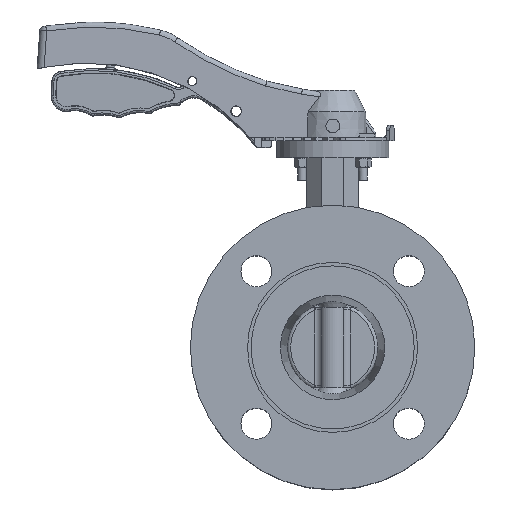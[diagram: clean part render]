
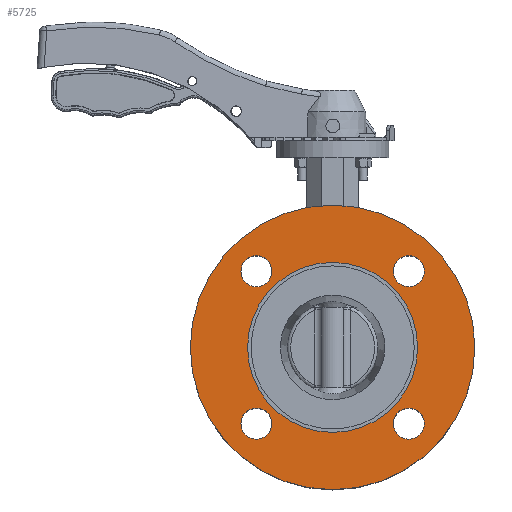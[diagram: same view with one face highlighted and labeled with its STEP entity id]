
A CAD part, top view. The second image highlights one B-rep face of the part: STEP entity #5725.
In plain terms, the highlighted planar face has unit normal (0, 0, 1).
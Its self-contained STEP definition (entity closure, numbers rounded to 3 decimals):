
#1213 = CARTESIAN_POINT ( 'NONE',  ( 44.194, 44.194, 52. ) ) ;
#1483 = DIRECTION ( 'NONE',  ( 0., 0., -1. ) ) ;
#2125 = DIRECTION ( 'NONE',  ( 0., 0., -1. ) ) ;
#2199 = AXIS2_PLACEMENT_3D ( 'NONE', #41353, #60862, #32070 ) ;
#2539 = VERTEX_POINT ( 'NONE', #58785 ) ;
#3212 = CARTESIAN_POINT ( 'NONE',  ( 44.194, -44.194, 52. ) ) ;
#3923 = DIRECTION ( 'NONE',  ( 1., 0., 0. ) ) ;
#4165 = EDGE_LOOP ( 'NONE', ( #5279 ) ) ;
#4630 = DIRECTION ( 'NONE',  ( 0., 0., -1. ) ) ;
#4985 = EDGE_CURVE ( 'NONE', #44496, #44496, #59863, .T. ) ;
#5279 = ORIENTED_EDGE ( 'NONE', *, *, #46156, .T. ) ;
#5725 = ADVANCED_FACE ( 'NONE', ( #32668, #36110, #51543, #60223, #50618, #26482 ), #22439, .F. ) ;
#6590 = ORIENTED_EDGE ( 'NONE', *, *, #57331, .T. ) ;
#8399 = AXIS2_PLACEMENT_3D ( 'NONE', #15450, #22460, #31765 ) ;
#10756 = DIRECTION ( 'NONE',  ( -1., 0., 0. ) ) ;
#13041 = ORIENTED_EDGE ( 'NONE', *, *, #45915, .T. ) ;
#13202 = EDGE_LOOP ( 'NONE', ( #48295 ) ) ;
#13314 = VERTEX_POINT ( 'NONE', #32115 ) ;
#13621 = CARTESIAN_POINT ( 'NONE',  ( 35.194, 44.194, 52. ) ) ;
#14219 = VERTEX_POINT ( 'NONE', #13621 ) ;
#15450 = CARTESIAN_POINT ( 'NONE',  ( -44.194, -44.194, 52. ) ) ;
#17512 = AXIS2_PLACEMENT_3D ( 'NONE', #45937, #50300, #27102 ) ;
#20378 = EDGE_CURVE ( 'NONE', #2539, #2539, #28769, .T. ) ;
#21119 = AXIS2_PLACEMENT_3D ( 'NONE', #36456, #4630, #23397 ) ;
#21975 = DIRECTION ( 'NONE',  ( -1., 0., 0. ) ) ;
#22439 = PLANE ( 'NONE',  #17512 ) ;
#22460 = DIRECTION ( 'NONE',  ( 0., 0., -1. ) ) ;
#23397 = DIRECTION ( 'NONE',  ( -1., 0., 0. ) ) ;
#23668 = ORIENTED_EDGE ( 'NONE', *, *, #4985, .T. ) ;
#26482 = FACE_BOUND ( 'NONE', #13202, .T. ) ;
#27102 = DIRECTION ( 'NONE',  ( 1., 0., 0. ) ) ;
#27535 = ORIENTED_EDGE ( 'NONE', *, *, #20378, .F. ) ;
#28769 = CIRCLE ( 'NONE', #2199, 49.3 ) ;
#31765 = DIRECTION ( 'NONE',  ( -1., 0., 0. ) ) ;
#32070 = DIRECTION ( 'NONE',  ( 1., 0., 0. ) ) ;
#32115 = CARTESIAN_POINT ( 'NONE',  ( -53.194, 44.194, 52. ) ) ;
#32197 = AXIS2_PLACEMENT_3D ( 'NONE', #3212, #1483, #21975 ) ;
#32668 = FACE_BOUND ( 'NONE', #36497, .T. ) ;
#36006 = CIRCLE ( 'NONE', #21119, 9. ) ;
#36110 = FACE_OUTER_BOUND ( 'NONE', #4165, .T. ) ;
#36390 = DIRECTION ( 'NONE',  ( 0., 0., 1. ) ) ;
#36456 = CARTESIAN_POINT ( 'NONE',  ( -44.194, 44.194, 52. ) ) ;
#36497 = EDGE_LOOP ( 'NONE', ( #27535 ) ) ;
#37288 = EDGE_LOOP ( 'NONE', ( #13041 ) ) ;
#41353 = CARTESIAN_POINT ( 'NONE',  ( 0., 0., 52. ) ) ;
#41717 = VERTEX_POINT ( 'NONE', #51931 ) ;
#42957 = EDGE_CURVE ( 'NONE', #14219, #14219, #44435, .T. ) ;
#43691 = EDGE_LOOP ( 'NONE', ( #6590 ) ) ;
#43829 = CARTESIAN_POINT ( 'NONE',  ( -53.194, -44.194, 52. ) ) ;
#44435 = CIRCLE ( 'NONE', #54381, 9. ) ;
#44496 = VERTEX_POINT ( 'NONE', #57284 ) ;
#45915 = EDGE_CURVE ( 'NONE', #13314, #13314, #36006, .T. ) ;
#45937 = CARTESIAN_POINT ( 'NONE',  ( -49.3, 0., 52. ) ) ;
#46156 = EDGE_CURVE ( 'NONE', #41717, #41717, #51849, .T. ) ;
#48162 = VERTEX_POINT ( 'NONE', #43829 ) ;
#48295 = ORIENTED_EDGE ( 'NONE', *, *, #42957, .T. ) ;
#50300 = DIRECTION ( 'NONE',  ( 0., 0., -1. ) ) ;
#50618 = FACE_BOUND ( 'NONE', #51588, .T. ) ;
#50806 = AXIS2_PLACEMENT_3D ( 'NONE', #58969, #36390, #3923 ) ;
#51543 = FACE_BOUND ( 'NONE', #37288, .T. ) ;
#51588 = EDGE_LOOP ( 'NONE', ( #23668 ) ) ;
#51849 = CIRCLE ( 'NONE', #50806, 82.5 ) ;
#51931 = CARTESIAN_POINT ( 'NONE',  ( 82.5, 0., 52. ) ) ;
#54381 = AXIS2_PLACEMENT_3D ( 'NONE', #1213, #2125, #10756 ) ;
#57284 = CARTESIAN_POINT ( 'NONE',  ( 35.194, -44.194, 52. ) ) ;
#57331 = EDGE_CURVE ( 'NONE', #48162, #48162, #57797, .T. ) ;
#57797 = CIRCLE ( 'NONE', #8399, 9. ) ;
#58785 = CARTESIAN_POINT ( 'NONE',  ( 49.3, 0., 52. ) ) ;
#58969 = CARTESIAN_POINT ( 'NONE',  ( 0., 0., 52. ) ) ;
#59863 = CIRCLE ( 'NONE', #32197, 9. ) ;
#60223 = FACE_BOUND ( 'NONE', #43691, .T. ) ;
#60862 = DIRECTION ( 'NONE',  ( 0., 0., 1. ) ) ;
